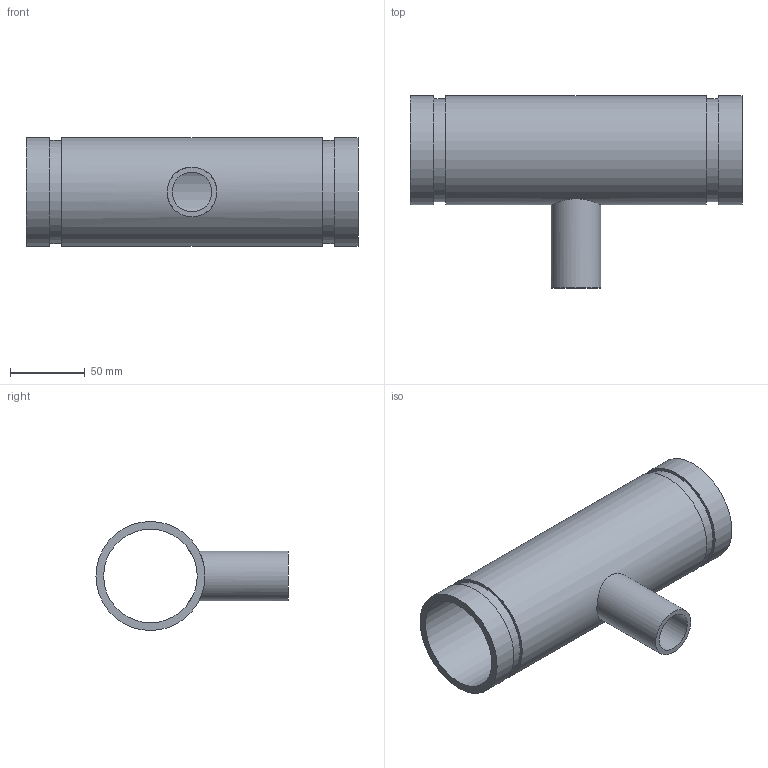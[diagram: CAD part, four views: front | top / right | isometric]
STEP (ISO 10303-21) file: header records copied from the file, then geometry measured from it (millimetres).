
FILE_DESCRIPTION(/* description */ ('VIC REDUCING TEE No 29T FFT (OGSxMPT)','CAx-IF Rec.Pracs.---Representation and Presentation of Product Manufacturing Information (PMI)---4.0---2014-10-13'),/* implementation_level */ '2;1');
FILE_NAME(/* name */ 'C:\Users\kkamble\AppData\Roaming\Autodesk\ApplicationPlugins\Back Up\Victaulic_IPS_Tee Reducing_No 29T FFT (OGSxMPT)\Victaulic_IPS_Tee Reducing_No 29T FFT (OGSxMPT)_02.5x01.0 (65x25).stp',/* time_stamp */ '2020-09-16T22:37:20+05:00',/* author */ ('CORINNE GRAY'),/* organization */ ('Victaulic'),/* preprocessor_version */ 'ST-DEVELOPER v17.2',/* originating_system */ 'Autodesk Inventor 2019',/* authorisation */ '');
FILE_SCHEMA (('AP242_MANAGED_MODEL_BASED_3D_ENGINEERING_MIM_LF { 1 0 10303 442 1 1 4 }'));
Length unit declared in the file: inch
Products named in the file (1): 29 FFT-02.5x01.0
Bounding box: 222.5 x 128.71 x 73.03 mm (x, y, z)
Volume: 252948.3 mm3; surface area: 108757.6 mm2
Topology: 1 solids, 1 shells, 15 faces, 32 edges, 24 vertices
Faces by surface type: cylinder 8, plane 7
Full cylindrical faces by diameter (mm): 26.645 x1, 33.401 x1, 62.713 x1, 69.088 x2, 73.025 x3
Entity records: 685 total; most frequent: CARTESIAN_POINT 197, DIRECTION 106, ORIENTED_EDGE 64, AXIS2_PLACEMENT_3D 49, EDGE_CURVE 32, EDGE_LOOP 24, VERTEX_POINT 24, CIRCLE 20
